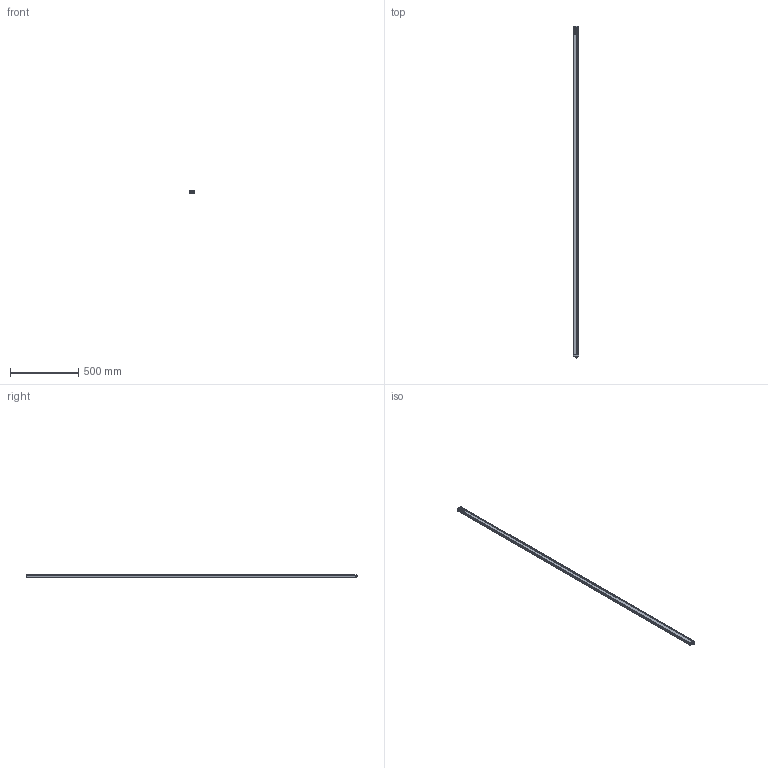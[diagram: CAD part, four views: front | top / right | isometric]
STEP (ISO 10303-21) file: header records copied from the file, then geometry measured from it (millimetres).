
FILE_DESCRIPTION(/* description */ (''),/* implementation_level */ '2;1');
FILE_NAME(/* name */ 'C:\Users\andre\SynologyDrive\Optoscan\Libreria Componenti\00 - Barriere\Polaris sorgente\Barriera Polaris RX\Polaris_2400_RX.stp',/* time_stamp */ '2021-06-04T12:11:02+02:00',/* author */ ('andre'),/* organization */ (''),/* preprocessor_version */ 'ST-DEVELOPER v18',/* originating_system */ 'Autodesk Inventor 2020',/* authorisation */ '');
FILE_SCHEMA (('AUTOMOTIVE_DESIGN { 1 0 10303 214 3 1 1 }'));
Length unit declared in the file: millimetre
Products named in the file (1): Polaris_2400_RX
Bounding box: 40.5 x 2433.3 x 20.75 mm (x, y, z)
Volume: 478337.5 mm3; surface area: 635875.8 mm2
Topology: 1 solids, 1 shells, 700 faces, 1926 edges, 1237 vertices
Faces by surface type: plane 319, cylinder 199, bspline 94, torus 70, sphere 10, cone 8
Full cylindrical faces by diameter (mm): 1 x8, 2.459 x4, 2.5 x4, 3 x4, 3.5 x4, 5.5 x4, 8 x1, 10.5 x2, 11.75 x9, 15.7 x1, 17.5 x1
Entity records: 28472 total; most frequent: CARTESIAN_POINT 10246, ORIENTED_EDGE 3826, DIRECTION 3447, EDGE_CURVE 1913, VERTEX_POINT 1237, AXIS2_PLACEMENT_3D 1211, LINE 1025, VECTOR 1025
